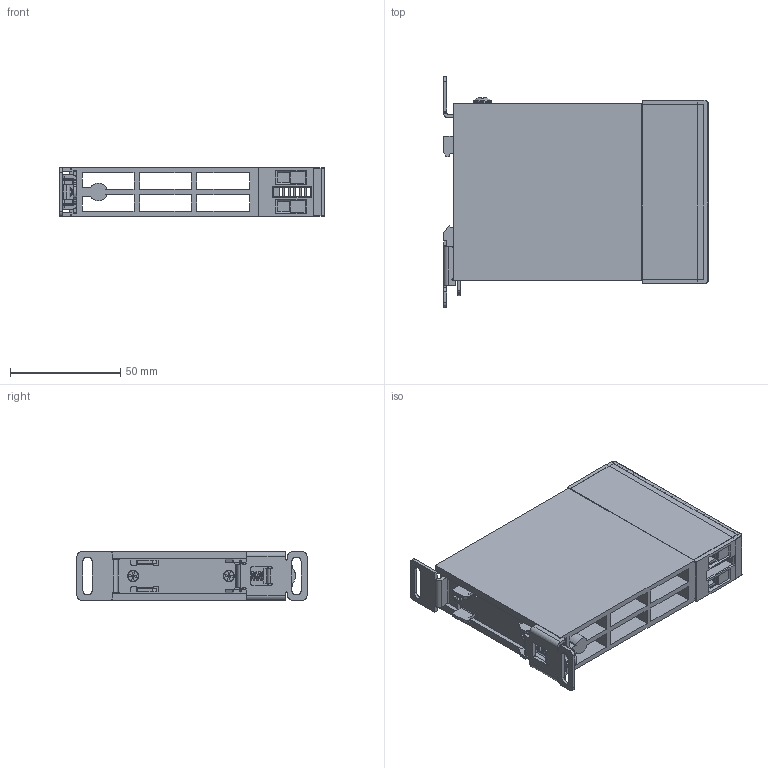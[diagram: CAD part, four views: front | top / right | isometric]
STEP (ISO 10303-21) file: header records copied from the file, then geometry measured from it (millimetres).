
FILE_DESCRIPTION(('STEP AP214'),'2;1');
FILE_NAME('7731.stp','2013-04-24T11:13:14',(''),(''),'2007.1.106','THINKDESIGN','');
FILE_SCHEMA(('AUTOMOTIVE_DESIGN'));
Length unit declared in the file: millimetre
Products named in the file (1): top
Bounding box: 120.3 x 104.5 x 22.5 mm (x, y, z)
Surface area: 68769.7 mm2 (no closed solid volume)
Topology: 0 solids, 0 shells, 947 faces, 6363 edges, 6360 vertices
Faces by surface type: plane 729, cylinder 166, bspline 52
Full cylindrical faces by diameter (mm): 5 x6, 8 x1
Entity records: 56089 total; most frequent: CARTESIAN_POINT 20363, DIRECTION 7694, COMPOSITE_CURVE_SEGMENT 6366, TRIMMED_CURVE 5546, VECTOR 5190, LINE 5190, AXIS2_PLACEMENT_3D 1252, OUTER_BOUNDARY_CURVE 947
